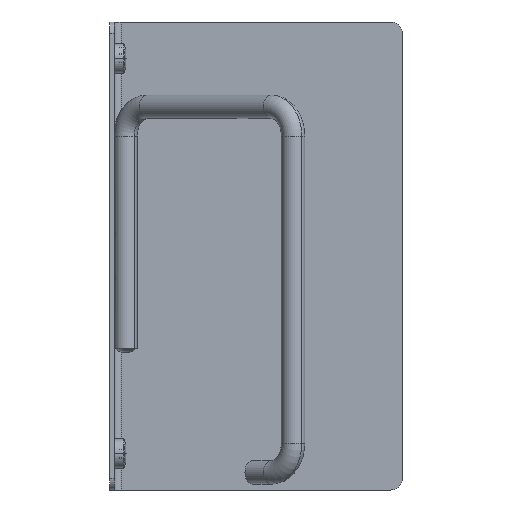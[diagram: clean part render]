
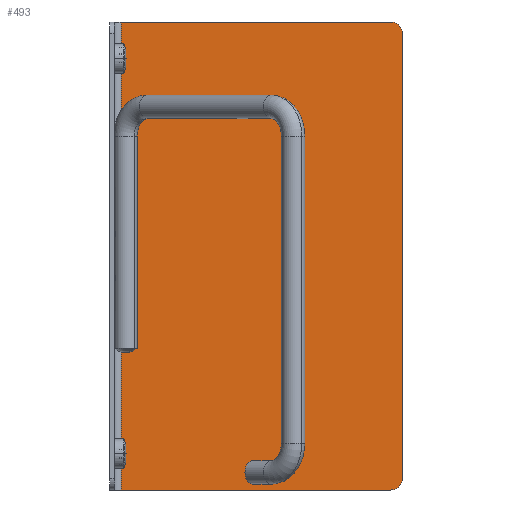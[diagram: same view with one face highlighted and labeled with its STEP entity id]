
A CAD part, front view. The second image highlights one B-rep face of the part: STEP entity #493.
In plain terms, the highlighted planar face has unit normal (0, -1, 0).
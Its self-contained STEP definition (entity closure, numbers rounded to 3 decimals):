
#26=DIRECTION('',(1.,0.,0.));
#27=VECTOR('',#26,92.);
#28=CARTESIAN_POINT('',(4.,-1.5,-80.));
#29=LINE('',#28,#27);
#30=CARTESIAN_POINT('',(96.,-1.5,76.));
#31=DIRECTION('',(0.,-1.,0.));
#32=DIRECTION('',(1.,0.,0.));
#33=AXIS2_PLACEMENT_3D('',#30,#31,#32);
#35=CARTESIAN_POINT('',(96.,-1.5,-76.));
#36=DIRECTION('',(0.,-1.,0.));
#37=DIRECTION('',(0.,0.,-1.));
#38=AXIS2_PLACEMENT_3D('',#35,#36,#37);
#40=DIRECTION('',(0.,0.,1.));
#41=VECTOR('',#40,160.);
#42=CARTESIAN_POINT('',(4.,-1.5,-80.));
#43=LINE('',#42,#41);
#44=DIRECTION('',(1.,0.,0.));
#45=VECTOR('',#44,92.);
#46=CARTESIAN_POINT('',(4.,-1.5,80.));
#47=LINE('',#46,#45);
#337=DIRECTION('',(0.,0.,-1.));
#338=VECTOR('',#337,152.);
#339=CARTESIAN_POINT('',(100.,-1.5,76.));
#340=LINE('',#339,#338);
#341=CARTESIAN_POINT('',(4.,-1.5,-80.));
#342=CARTESIAN_POINT('',(4.,-1.5,80.));
#343=VERTEX_POINT('',#341);
#344=VERTEX_POINT('',#342);
#425=CARTESIAN_POINT('',(100.,-1.5,76.));
#426=VERTEX_POINT('',#425);
#427=CARTESIAN_POINT('',(96.,-1.5,80.));
#428=VERTEX_POINT('',#427);
#429=CARTESIAN_POINT('',(96.,-1.5,-80.));
#430=CARTESIAN_POINT('',(100.,-1.5,-76.));
#431=VERTEX_POINT('',#429);
#432=VERTEX_POINT('',#430);
#476=CARTESIAN_POINT('',(1.5,-1.5,-80.));
#477=DIRECTION('',(0.,-1.,0.));
#478=DIRECTION('',(1.,0.,0.));
#479=AXIS2_PLACEMENT_3D('',#476,#477,#478);
#480=PLANE('',#479);
#482=ORIENTED_EDGE('',*,*,#481,.F.);
#484=ORIENTED_EDGE('',*,*,#483,.T.);
#485=ORIENTED_EDGE('',*,*,#466,.F.);
#486=ORIENTED_EDGE('',*,*,#456,.F.);
#488=ORIENTED_EDGE('',*,*,#487,.T.);
#490=ORIENTED_EDGE('',*,*,#489,.T.);
#491=EDGE_LOOP('',(#482,#484,#485,#486,#488,#490));
#492=FACE_OUTER_BOUND('',#491,.F.);
#493=ADVANCED_FACE('',(#492),#480,.T.);
#34=CIRCLE('',#33,4.);
#39=CIRCLE('',#38,4.);
#456=EDGE_CURVE('',#343,#431,#29,.T.);
#466=EDGE_CURVE('',#431,#432,#39,.T.);
#481=EDGE_CURVE('',#426,#428,#34,.T.);
#483=EDGE_CURVE('',#426,#432,#340,.T.);
#487=EDGE_CURVE('',#343,#344,#43,.T.);
#489=EDGE_CURVE('',#344,#428,#47,.T.);
